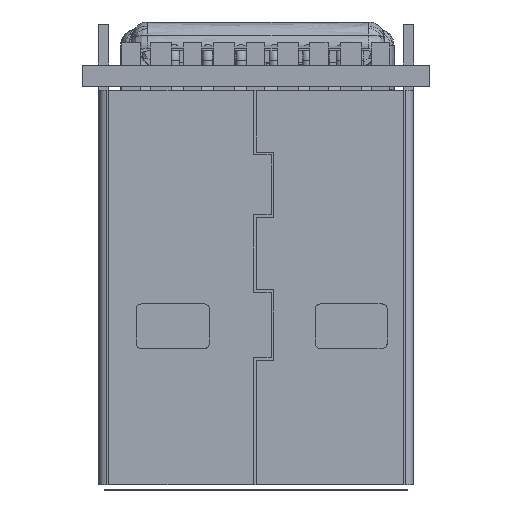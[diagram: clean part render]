
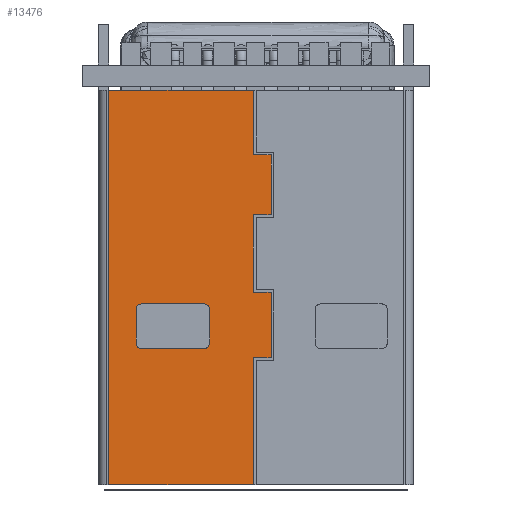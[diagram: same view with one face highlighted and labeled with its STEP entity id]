
A CAD part, front view. The second image highlights one B-rep face of the part: STEP entity #13476.
In plain terms, the highlighted planar face has unit normal (0, -1, 0) as drawn and (0, 0, 1) by its records, which use the part's own axes.
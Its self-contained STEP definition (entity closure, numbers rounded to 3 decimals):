
#13129 = VERTEX_POINT('',#13130);
#13130 = CARTESIAN_POINT('',(-11.6,21.153,1.4));
#13137 = EDGE_CURVE('',#13129,#13138,#13140,.T.);
#13138 = VERTEX_POINT('',#13139);
#13139 = CARTESIAN_POINT('',(-6.1,21.153,1.4));
#13140 = LINE('',#13141,#13142);
#13141 = CARTESIAN_POINT('',(-12.,21.153,1.4));
#13142 = VECTOR('',#13143,1.);
#13143 = DIRECTION('',(1.,0.,0.));
#13355 = VERTEX_POINT('',#13356);
#13356 = CARTESIAN_POINT('',(-6.1,6.153,1.4));
#13362 = EDGE_CURVE('',#13363,#13355,#13365,.T.);
#13363 = VERTEX_POINT('',#13364);
#13364 = CARTESIAN_POINT('',(-11.6,6.153,1.4));
#13365 = LINE('',#13366,#13367);
#13366 = CARTESIAN_POINT('',(-12.,6.153,1.4));
#13367 = VECTOR('',#13368,1.);
#13368 = DIRECTION('',(1.,0.,0.));
#13476 = ADVANCED_FACE('',(#13477,#13547),#13627,.F.);
#13477 = FACE_BOUND('',#13478,.T.);
#13478 = EDGE_LOOP('',(#13479,#13489,#13498,#13506,#13515,#13523,#13532,
    #13540));
#13479 = ORIENTED_EDGE('',*,*,#13480,.F.);
#13480 = EDGE_CURVE('',#13481,#13483,#13485,.T.);
#13481 = VERTEX_POINT('',#13482);
#13482 = CARTESIAN_POINT('',(-10.363,11.338,1.4));
#13483 = VERTEX_POINT('',#13484);
#13484 = CARTESIAN_POINT('',(-7.966,11.338,1.4));
#13485 = LINE('',#13486,#13487);
#13486 = CARTESIAN_POINT('',(-10.563,11.338,1.4));
#13487 = VECTOR('',#13488,1.);
#13488 = DIRECTION('',(1.,0.,0.));
#13489 = ORIENTED_EDGE('',*,*,#13490,.T.);
#13490 = EDGE_CURVE('',#13481,#13491,#13493,.T.);
#13491 = VERTEX_POINT('',#13492);
#13492 = CARTESIAN_POINT('',(-10.563,11.538,1.4));
#13493 = CIRCLE('',#13494,0.2);
#13494 = AXIS2_PLACEMENT_3D('',#13495,#13496,#13497);
#13495 = CARTESIAN_POINT('',(-10.363,11.538,1.4));
#13496 = DIRECTION('',(0.,0.,-1.));
#13497 = DIRECTION('',(-1.,0.,-0.));
#13498 = ORIENTED_EDGE('',*,*,#13499,.F.);
#13499 = EDGE_CURVE('',#13500,#13491,#13502,.T.);
#13500 = VERTEX_POINT('',#13501);
#13501 = CARTESIAN_POINT('',(-10.563,12.828,1.4));
#13502 = LINE('',#13503,#13504);
#13503 = CARTESIAN_POINT('',(-10.563,13.028,1.4));
#13504 = VECTOR('',#13505,1.);
#13505 = DIRECTION('',(0.,-1.,0.));
#13506 = ORIENTED_EDGE('',*,*,#13507,.T.);
#13507 = EDGE_CURVE('',#13500,#13508,#13510,.T.);
#13508 = VERTEX_POINT('',#13509);
#13509 = CARTESIAN_POINT('',(-10.363,13.028,1.4));
#13510 = CIRCLE('',#13511,0.2);
#13511 = AXIS2_PLACEMENT_3D('',#13512,#13513,#13514);
#13512 = CARTESIAN_POINT('',(-10.363,12.828,1.4));
#13513 = DIRECTION('',(0.,0.,-1.));
#13514 = DIRECTION('',(-1.,0.,-0.));
#13515 = ORIENTED_EDGE('',*,*,#13516,.F.);
#13516 = EDGE_CURVE('',#13517,#13508,#13519,.T.);
#13517 = VERTEX_POINT('',#13518);
#13518 = CARTESIAN_POINT('',(-7.966,13.028,1.4));
#13519 = LINE('',#13520,#13521);
#13520 = CARTESIAN_POINT('',(-10.563,13.028,1.4));
#13521 = VECTOR('',#13522,1.);
#13522 = DIRECTION('',(-1.,-0.,-0.));
#13523 = ORIENTED_EDGE('',*,*,#13524,.T.);
#13524 = EDGE_CURVE('',#13517,#13525,#13527,.T.);
#13525 = VERTEX_POINT('',#13526);
#13526 = CARTESIAN_POINT('',(-7.766,12.828,1.4));
#13527 = CIRCLE('',#13528,0.2);
#13528 = AXIS2_PLACEMENT_3D('',#13529,#13530,#13531);
#13529 = CARTESIAN_POINT('',(-7.966,12.828,1.4));
#13530 = DIRECTION('',(0.,0.,-1.));
#13531 = DIRECTION('',(-1.,0.,-0.));
#13532 = ORIENTED_EDGE('',*,*,#13533,.F.);
#13533 = EDGE_CURVE('',#13534,#13525,#13536,.T.);
#13534 = VERTEX_POINT('',#13535);
#13535 = CARTESIAN_POINT('',(-7.766,11.538,1.4));
#13536 = LINE('',#13537,#13538);
#13537 = CARTESIAN_POINT('',(-7.766,13.028,1.4));
#13538 = VECTOR('',#13539,1.);
#13539 = DIRECTION('',(-0.,1.,-0.));
#13540 = ORIENTED_EDGE('',*,*,#13541,.T.);
#13541 = EDGE_CURVE('',#13534,#13483,#13542,.T.);
#13542 = CIRCLE('',#13543,0.2);
#13543 = AXIS2_PLACEMENT_3D('',#13544,#13545,#13546);
#13544 = CARTESIAN_POINT('',(-7.966,11.538,1.4));
#13545 = DIRECTION('',(0.,0.,-1.));
#13546 = DIRECTION('',(-1.,0.,-0.));
#13547 = FACE_BOUND('',#13548,.T.);
#13548 = EDGE_LOOP('',(#13549,#13550,#13556,#13557,#13565,#13573,#13581,
    #13589,#13597,#13605,#13613,#13621));
#13549 = ORIENTED_EDGE('',*,*,#13137,.F.);
#13550 = ORIENTED_EDGE('',*,*,#13551,.T.);
#13551 = EDGE_CURVE('',#13129,#13363,#13552,.T.);
#13552 = LINE('',#13553,#13554);
#13553 = CARTESIAN_POINT('',(-11.6,21.153,1.4));
#13554 = VECTOR('',#13555,1.);
#13555 = DIRECTION('',(0.,-1.,0.));
#13556 = ORIENTED_EDGE('',*,*,#13362,.T.);
#13557 = ORIENTED_EDGE('',*,*,#13558,.F.);
#13558 = EDGE_CURVE('',#13559,#13355,#13561,.T.);
#13559 = VERTEX_POINT('',#13560);
#13560 = CARTESIAN_POINT('',(-6.1,10.983,1.4));
#13561 = LINE('',#13562,#13563);
#13562 = CARTESIAN_POINT('',(-6.1,10.983,1.4));
#13563 = VECTOR('',#13564,1.);
#13564 = DIRECTION('',(0.,-1.,0.));
#13565 = ORIENTED_EDGE('',*,*,#13566,.F.);
#13566 = EDGE_CURVE('',#13567,#13559,#13569,.T.);
#13567 = VERTEX_POINT('',#13568);
#13568 = CARTESIAN_POINT('',(-5.423,10.983,1.4));
#13569 = LINE('',#13570,#13571);
#13570 = CARTESIAN_POINT('',(-5.423,10.983,1.4));
#13571 = VECTOR('',#13572,1.);
#13572 = DIRECTION('',(-1.,0.,0.));
#13573 = ORIENTED_EDGE('',*,*,#13574,.F.);
#13574 = EDGE_CURVE('',#13575,#13567,#13577,.T.);
#13575 = VERTEX_POINT('',#13576);
#13576 = CARTESIAN_POINT('',(-5.423,13.464,1.4));
#13577 = LINE('',#13578,#13579);
#13578 = CARTESIAN_POINT('',(-5.423,13.464,1.4));
#13579 = VECTOR('',#13580,1.);
#13580 = DIRECTION('',(0.,-1.,0.));
#13581 = ORIENTED_EDGE('',*,*,#13582,.F.);
#13582 = EDGE_CURVE('',#13583,#13575,#13585,.T.);
#13583 = VERTEX_POINT('',#13584);
#13584 = CARTESIAN_POINT('',(-6.1,13.464,1.4));
#13585 = LINE('',#13586,#13587);
#13586 = CARTESIAN_POINT('',(-6.1,13.464,1.4));
#13587 = VECTOR('',#13588,1.);
#13588 = DIRECTION('',(1.,0.,0.));
#13589 = ORIENTED_EDGE('',*,*,#13590,.F.);
#13590 = EDGE_CURVE('',#13591,#13583,#13593,.T.);
#13591 = VERTEX_POINT('',#13592);
#13592 = CARTESIAN_POINT('',(-6.1,16.424,1.4));
#13593 = LINE('',#13594,#13595);
#13594 = CARTESIAN_POINT('',(-6.1,16.424,1.4));
#13595 = VECTOR('',#13596,1.);
#13596 = DIRECTION('',(0.,-1.,0.));
#13597 = ORIENTED_EDGE('',*,*,#13598,.F.);
#13598 = EDGE_CURVE('',#13599,#13591,#13601,.T.);
#13599 = VERTEX_POINT('',#13600);
#13600 = CARTESIAN_POINT('',(-5.423,16.424,1.4));
#13601 = LINE('',#13602,#13603);
#13602 = CARTESIAN_POINT('',(-5.423,16.424,1.4));
#13603 = VECTOR('',#13604,1.);
#13604 = DIRECTION('',(-1.,0.,0.));
#13605 = ORIENTED_EDGE('',*,*,#13606,.F.);
#13606 = EDGE_CURVE('',#13607,#13599,#13609,.T.);
#13607 = VERTEX_POINT('',#13608);
#13608 = CARTESIAN_POINT('',(-5.423,18.697,1.4));
#13609 = LINE('',#13610,#13611);
#13610 = CARTESIAN_POINT('',(-5.423,18.697,1.4));
#13611 = VECTOR('',#13612,1.);
#13612 = DIRECTION('',(0.,-1.,0.));
#13613 = ORIENTED_EDGE('',*,*,#13614,.F.);
#13614 = EDGE_CURVE('',#13615,#13607,#13617,.T.);
#13615 = VERTEX_POINT('',#13616);
#13616 = CARTESIAN_POINT('',(-6.1,18.697,1.4));
#13617 = LINE('',#13618,#13619);
#13618 = CARTESIAN_POINT('',(-6.1,18.697,1.4));
#13619 = VECTOR('',#13620,1.);
#13620 = DIRECTION('',(1.,0.,0.));
#13621 = ORIENTED_EDGE('',*,*,#13622,.F.);
#13622 = EDGE_CURVE('',#13138,#13615,#13623,.T.);
#13623 = LINE('',#13624,#13625);
#13624 = CARTESIAN_POINT('',(-6.1,21.153,1.4));
#13625 = VECTOR('',#13626,1.);
#13626 = DIRECTION('',(0.,-1.,0.));
#13627 = PLANE('',#13628);
#13628 = AXIS2_PLACEMENT_3D('',#13629,#13630,#13631);
#13629 = CARTESIAN_POINT('',(-12.,21.153,1.4));
#13630 = DIRECTION('',(0.,0.,-1.));
#13631 = DIRECTION('',(-1.,0.,-0.));
